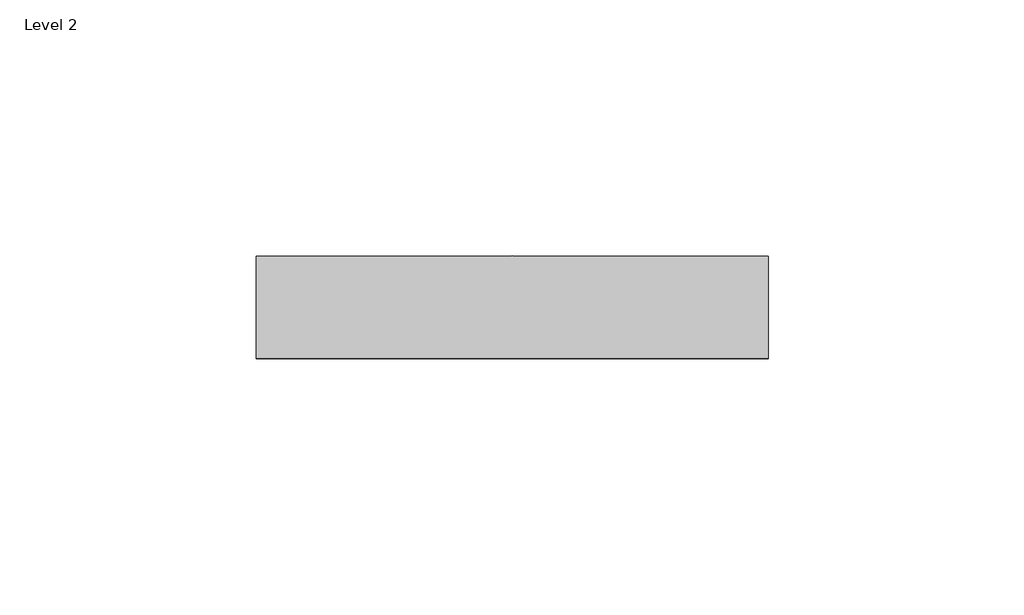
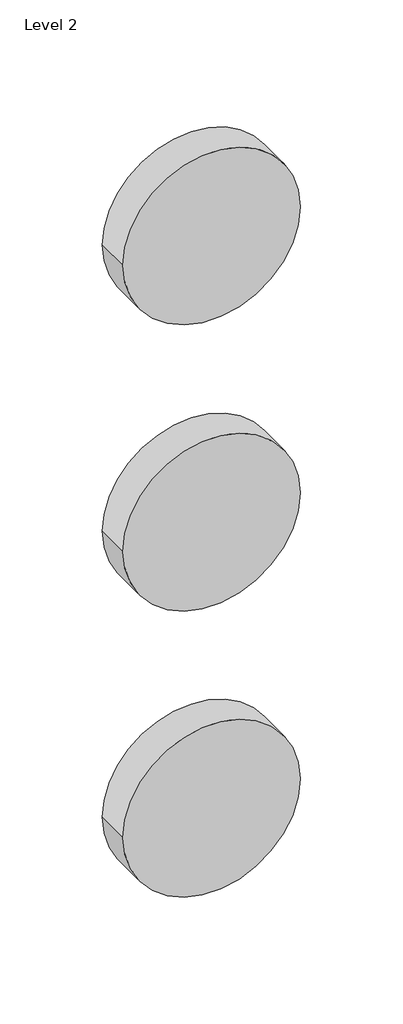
# One storey: 3 proxies.
"""IFC4 building model written with IfcOpenShell, lengths in millimetres."""

from ifc_helpers import new_model, si_unit, origin, place, context, project, spatial, transform, mapped, element, save
from components import materialmodel_materialmodel_13df9e44

model = new_model("IFC4")

# Units and contexts
model_context = context("Model", 3, world=origin())
ifc_project = project(units=[si_unit("LENGTHUNIT", "METRE", prefix="MILLI")], contexts=[model_context])

# Site, building, storey
site = spatial("IfcSite", under=ifc_project)
building = spatial("IfcBuilding", under=site)
storey = spatial("IfcBuildingStorey", under=building, Name="Level 2", Elevation=4000.0)

# Proxies
placement = place(None, origin())
materialmodel_materialmodel_shape = materialmodel_materialmodel_13df9e44(model_context)
element("IfcBuildingElementProxy", 1, Name="MaterialModel : MaterialModel", ObjectType="MaterialModel : MaterialModel", at=placement, inside=storey, context=model_context, shape_type="MappedRepresentation", body=[
    mapped(materialmodel_materialmodel_shape, transform((-4448.4611147, 28.2129507, 1161.8568374), x_axis=(1.0, 0.0, 0.0), y_axis=(0.0, 1.0, 0.0), z_axis=(0.0, 0.0, 1.0))),
])
element("IfcBuildingElementProxy", 2, Name="MaterialModel : MaterialModel", ObjectType="MaterialModel : MaterialModel", at=placement, inside=storey, context=model_context, shape_type="MappedRepresentation", body=[
    mapped(materialmodel_materialmodel_shape, transform((-4448.4611147, 28.2129507, 1332.337785), x_axis=(1.0, 0.0, 0.0), y_axis=(0.0, 1.0, 0.0), z_axis=(0.0, 0.0, 1.0))),
])
element("IfcBuildingElementProxy", 3, Name="MaterialModel : MaterialModel", ObjectType="MaterialModel : MaterialModel", at=placement, inside=storey, context=model_context, shape_type="MappedRepresentation", body=[
    mapped(materialmodel_materialmodel_shape, transform((-4448.4611147, 28.2129507, 991.3758897), x_axis=(1.0, 0.0, 0.0), y_axis=(0.0, 1.0, 0.0), z_axis=(0.0, 0.0, 1.0))),
])

save(model, "model.ifc")
